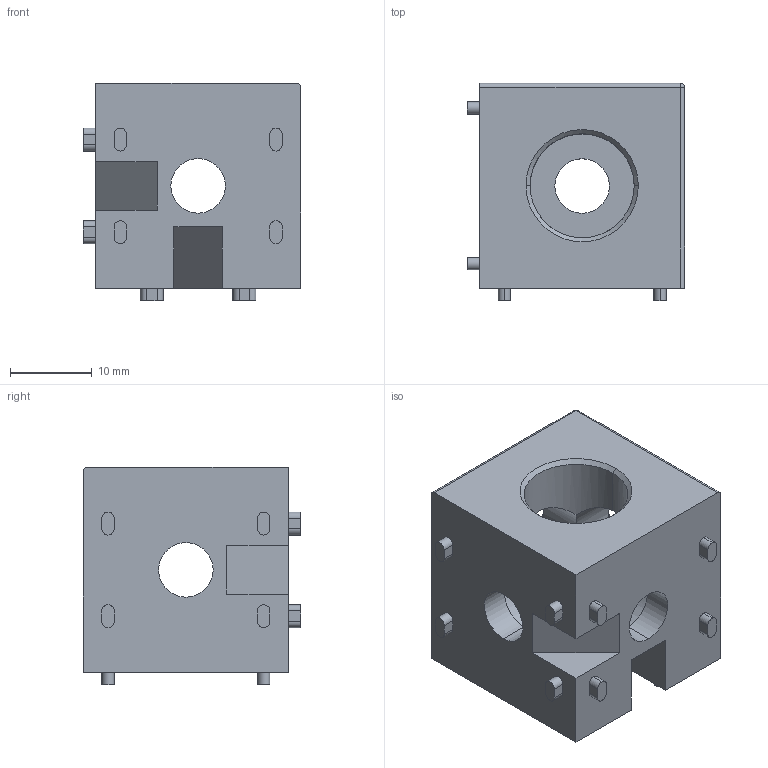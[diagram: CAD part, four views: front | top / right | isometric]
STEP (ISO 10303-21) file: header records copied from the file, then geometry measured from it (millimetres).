
FILE_DESCRIPTION (( 'STEP AP214' ), '1' );
FILE_NAME ('2151.STEP', '2022-10-11T15:07:44', ( '' ), ( '' ), 'SwSTEP 2.0', 'SolidWorks 2020', '' );
FILE_SCHEMA (( 'AUTOMOTIVE_DESIGN' ));
Length unit declared in the file: millimetre
Products named in the file (1): 2151
Bounding box: 26.5 x 26.5 x 26.5 mm (x, y, z)
Volume: 9702.2 mm3; surface area: 5107.7 mm2
Topology: 1 solids, 1 shells, 115 faces, 294 edges, 191 vertices
Faces by surface type: cylinder 57, plane 51, cone 6, sphere 1
Entity records: 3545 total; most frequent: CARTESIAN_POINT 660, DIRECTION 613, ORIENTED_EDGE 586, EDGE_CURVE 293, AXIS2_PLACEMENT_3D 224, VERTEX_POINT 191, LINE 165, VECTOR 165
